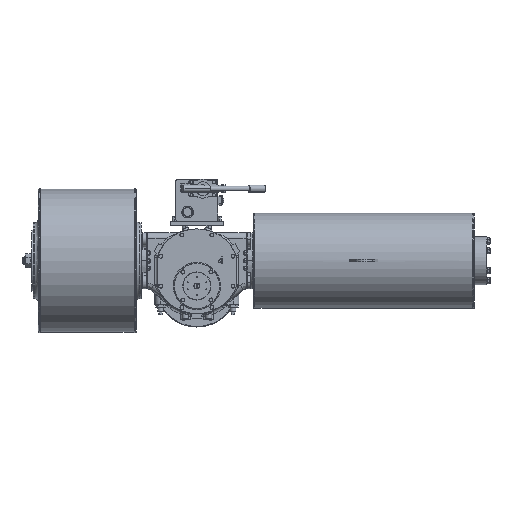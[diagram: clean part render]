
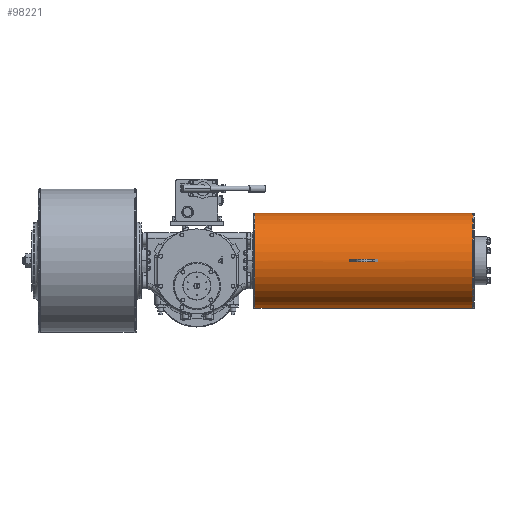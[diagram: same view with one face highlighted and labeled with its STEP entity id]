
A CAD part, top view. The second image highlights one B-rep face of the part: STEP entity #98221.
In plain terms, the highlighted cylindrical face has radius 203.2 mm (diameter 406.4 mm), a partial arc.
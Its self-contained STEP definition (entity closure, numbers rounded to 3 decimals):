
#987 = AXIS2_PLACEMENT_3D ( 'NONE', #87515, #66578, #28798 ) ;
#1008 = EDGE_CURVE ( 'NONE', #56270, #61531, #27831, .T. ) ;
#1377 = CARTESIAN_POINT ( 'NONE',  ( 774., 103., 285.638 ) ) ;
#1530 = CARTESIAN_POINT ( 'NONE',  ( 1176.5, -95.2, 82.5 ) ) ;
#1701 = VERTEX_POINT ( 'NONE', #88219 ) ;
#2359 = VECTOR ( 'NONE', #24764, 1000. ) ;
#2660 = LINE ( 'NONE', #38925, #82629 ) ;
#6634 = EDGE_LOOP ( 'NONE', ( #11628, #37823, #54822, #96811, #18713 ) ) ;
#8234 = EDGE_CURVE ( 'NONE', #52781, #61531, #16385, .T. ) ;
#8742 = DIRECTION ( 'NONE',  ( 1., 0., 0. ) ) ;
#10477 = DIRECTION ( 'NONE',  ( -1., 0., 0. ) ) ;
#10507 = ORIENTED_EDGE ( 'NONE', *, *, #66503, .T. ) ;
#10700 = ORIENTED_EDGE ( 'NONE', *, *, #66977, .F. ) ;
#11031 = DIRECTION ( 'NONE',  ( -1., 0., 0. ) ) ;
#11628 = ORIENTED_EDGE ( 'NONE', *, *, #39377, .T. ) ;
#12025 = CARTESIAN_POINT ( 'NONE',  ( 1176.5, 108., 82.5 ) ) ;
#12801 = CARTESIAN_POINT ( 'NONE',  ( 774., 108., 82.5 ) ) ;
#13040 = EDGE_CURVE ( 'NONE', #67971, #47346, #2660, .T. ) ;
#13459 = CIRCLE ( 'NONE', #19765, 203.2 ) ;
#16385 = LINE ( 'NONE', #1530, #30613 ) ;
#16843 = CARTESIAN_POINT ( 'NONE',  ( 654., 103., 285.638 ) ) ;
#16964 = CARTESIAN_POINT ( 'NONE',  ( 1176.5, 113., 285.638 ) ) ;
#17444 = CARTESIAN_POINT ( 'NONE',  ( 1179.7, 311.2, 82.5 ) ) ;
#18507 = DIRECTION ( 'NONE',  ( -1., 0., 0. ) ) ;
#18713 = ORIENTED_EDGE ( 'NONE', *, *, #8234, .F. ) ;
#19765 = AXIS2_PLACEMENT_3D ( 'NONE', #39718, #70040, #85452 ) ;
#19776 = ORIENTED_EDGE ( 'NONE', *, *, #37844, .T. ) ;
#19964 = ORIENTED_EDGE ( 'NONE', *, *, #13040, .T. ) ;
#20354 = ORIENTED_EDGE ( 'NONE', *, *, #49709, .T. ) ;
#20703 = CIRCLE ( 'NONE', #74640, 203.2 ) ;
#22264 = VERTEX_POINT ( 'NONE', #17444 ) ;
#22673 = EDGE_CURVE ( 'NONE', #27590, #56270, #13459, .T. ) ;
#23554 = DIRECTION ( 'NONE',  ( 0., 0., 1. ) ) ;
#23613 = EDGE_LOOP ( 'NONE', ( #19964, #19776, #20354, #10700, #32482, #10507 ) ) ;
#24764 = DIRECTION ( 'NONE',  ( -1., 0., 0. ) ) ;
#25261 = CARTESIAN_POINT ( 'NONE',  ( 1176.5, 311.2, 82.5 ) ) ;
#26927 = FACE_OUTER_BOUND ( 'NONE', #6634, .T. ) ;
#27590 = VERTEX_POINT ( 'NONE', #81003 ) ;
#27831 = CIRCLE ( 'NONE', #59539, 203.2 ) ;
#27883 = EDGE_CURVE ( 'NONE', #22264, #27590, #92869, .T. ) ;
#28035 = AXIS2_PLACEMENT_3D ( 'NONE', #70704, #11031, #39411 ) ;
#28798 = DIRECTION ( 'NONE',  ( 0., 0., 1. ) ) ;
#28843 = VERTEX_POINT ( 'NONE', #48962 ) ;
#30571 = EDGE_CURVE ( 'NONE', #91469, #1701, #51672, .T. ) ;
#30613 = VECTOR ( 'NONE', #31799, 1000. ) ;
#31144 = CARTESIAN_POINT ( 'NONE',  ( 654., 113., 285.638 ) ) ;
#31580 = DIRECTION ( 'NONE',  ( 0., -1., 0. ) ) ;
#31799 = DIRECTION ( 'NONE',  ( -1., 0., 0. ) ) ;
#32482 = ORIENTED_EDGE ( 'NONE', *, *, #30571, .T. ) ;
#36891 = VECTOR ( 'NONE', #62698, 1000. ) ;
#37823 = ORIENTED_EDGE ( 'NONE', *, *, #27883, .T. ) ;
#37844 = EDGE_CURVE ( 'NONE', #47346, #28843, #78874, .T. ) ;
#38835 = DIRECTION ( 'NONE',  ( 0., 0., -1. ) ) ;
#38925 = CARTESIAN_POINT ( 'NONE',  ( 1176.5, 103., 285.638 ) ) ;
#39377 = EDGE_CURVE ( 'NONE', #52781, #22264, #47315, .T. ) ;
#39411 = DIRECTION ( 'NONE',  ( 0., 0., -1. ) ) ;
#39718 = CARTESIAN_POINT ( 'NONE',  ( 248.3, 108., 82.5 ) ) ;
#41170 = CARTESIAN_POINT ( 'NONE',  ( 1179.7, -95.2, 82.5 ) ) ;
#45733 = AXIS2_PLACEMENT_3D ( 'NONE', #69125, #60660, #90503 ) ;
#47315 = CIRCLE ( 'NONE', #45733, 203.2 ) ;
#47346 = VERTEX_POINT ( 'NONE', #16843 ) ;
#47723 = VERTEX_POINT ( 'NONE', #31144 ) ;
#48962 = CARTESIAN_POINT ( 'NONE',  ( 654., 108., 285.7 ) ) ;
#49317 = FACE_BOUND ( 'NONE', #23613, .T. ) ;
#49709 = EDGE_CURVE ( 'NONE', #28843, #47723, #20703, .T. ) ;
#51672 = CIRCLE ( 'NONE', #987, 203.2 ) ;
#52781 = VERTEX_POINT ( 'NONE', #41170 ) ;
#54822 = ORIENTED_EDGE ( 'NONE', *, *, #22673, .T. ) ;
#55788 = DIRECTION ( 'NONE',  ( -1., 0., 0. ) ) ;
#56270 = VERTEX_POINT ( 'NONE', #75997 ) ;
#57254 = CYLINDRICAL_SURFACE ( 'NONE', #87335, 203.2 ) ;
#59539 = AXIS2_PLACEMENT_3D ( 'NONE', #93216, #8742, #31580 ) ;
#60660 = DIRECTION ( 'NONE',  ( -1., 0., 0. ) ) ;
#61531 = VERTEX_POINT ( 'NONE', #71871 ) ;
#62162 = CIRCLE ( 'NONE', #90737, 203.2 ) ;
#62670 = CARTESIAN_POINT ( 'NONE',  ( 654., 108., 82.5 ) ) ;
#62698 = DIRECTION ( 'NONE',  ( -1., 0., 0. ) ) ;
#66503 = EDGE_CURVE ( 'NONE', #1701, #67971, #62162, .T. ) ;
#66578 = DIRECTION ( 'NONE',  ( 1., 0., 0. ) ) ;
#66977 = EDGE_CURVE ( 'NONE', #91469, #47723, #86556, .T. ) ;
#67971 = VERTEX_POINT ( 'NONE', #1377 ) ;
#68790 = DIRECTION ( 'NONE',  ( 1., 0., 0. ) ) ;
#69125 = CARTESIAN_POINT ( 'NONE',  ( 1179.7, 108., 82.5 ) ) ;
#70040 = DIRECTION ( 'NONE',  ( 1., 0., 0. ) ) ;
#70704 = CARTESIAN_POINT ( 'NONE',  ( 654., 108., 82.5 ) ) ;
#71871 = CARTESIAN_POINT ( 'NONE',  ( 248.3, -95.2, 82.5 ) ) ;
#73211 = CARTESIAN_POINT ( 'NONE',  ( 774., 113., 285.638 ) ) ;
#74640 = AXIS2_PLACEMENT_3D ( 'NONE', #62670, #10477, #38835 ) ;
#75997 = CARTESIAN_POINT ( 'NONE',  ( 248.3, 108., 285.7 ) ) ;
#78874 = CIRCLE ( 'NONE', #28035, 203.2 ) ;
#81003 = CARTESIAN_POINT ( 'NONE',  ( 248.3, 311.2, 82.5 ) ) ;
#82629 = VECTOR ( 'NONE', #55788, 1000. ) ;
#85452 = DIRECTION ( 'NONE',  ( 0., -1., 0. ) ) ;
#86556 = LINE ( 'NONE', #16964, #36891 ) ;
#87335 = AXIS2_PLACEMENT_3D ( 'NONE', #12025, #18507, #87594 ) ;
#87515 = CARTESIAN_POINT ( 'NONE',  ( 774., 108., 82.5 ) ) ;
#87594 = DIRECTION ( 'NONE',  ( 0., -1., 0. ) ) ;
#88219 = CARTESIAN_POINT ( 'NONE',  ( 774., 108., 285.7 ) ) ;
#90503 = DIRECTION ( 'NONE',  ( 0., -1., 0. ) ) ;
#90737 = AXIS2_PLACEMENT_3D ( 'NONE', #12801, #68790, #23554 ) ;
#91469 = VERTEX_POINT ( 'NONE', #73211 ) ;
#92869 = LINE ( 'NONE', #25261, #2359 ) ;
#93216 = CARTESIAN_POINT ( 'NONE',  ( 248.3, 108., 82.5 ) ) ;
#96811 = ORIENTED_EDGE ( 'NONE', *, *, #1008, .T. ) ;
#98221 = ADVANCED_FACE ( 'NONE', ( #49317, #26927 ), #57254, .T. ) ;
